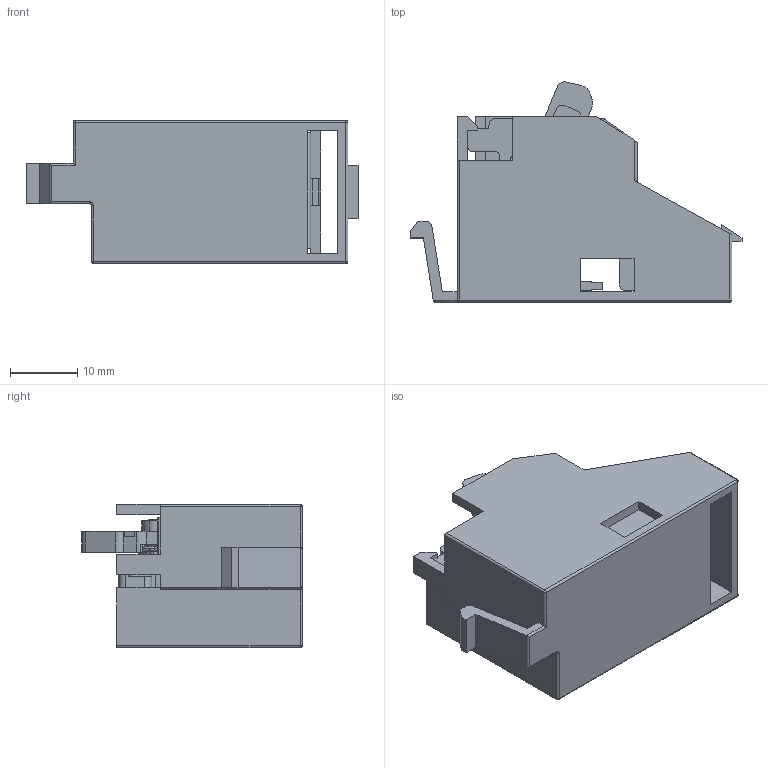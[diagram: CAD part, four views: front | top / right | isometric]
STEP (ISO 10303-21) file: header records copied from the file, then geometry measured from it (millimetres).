
FILE_DESCRIPTION (( 'STEP AP214' ), '1' );
FILE_NAME ('辅助（OF） BM3-63 左.STEP', '2023-11-02T01:52:01', ( '' ), ( '' ), 'SwSTEP 2.0', 'SolidWorks 2016', '' );
FILE_SCHEMA (( 'AUTOMOTIVE_DESIGN' ));
Length unit declared in the file: millimetre
Products named in the file (5): 峚雄; ﾍ篩ﾇ+ﾄﾚｲｿ; 辅助（OF） BM3-63 左; 畢裝3   2023.10.25載蜊; 粟銅3 蚾饜綴
Assembly tree (4 placements, depth 2):
  辅助（OF） BM3-63 左
    ﾍ篩ﾇ+ﾄﾚｲｿ
    峚雄
    粟銅3 蚾饜綴
    畢裝3   2023.10.25載蜊
Bounding box: 49.2 x 32.65 x 21.2 mm (x, y, z)
Volume: 8590.3 mm3; surface area: 10674.5 mm2
Topology: 5 solids, 5 shells, 369 faces, 996 edges, 650 vertices
Faces by surface type: plane 227, cylinder 115, bspline 25, torus 2
Entity records: 13811 total; most frequent: CARTESIAN_POINT 4283, ORIENTED_EDGE 1984, DIRECTION 1907, EDGE_CURVE 992, LINE 711, VECTOR 711, VERTEX_POINT 650, AXIS2_PLACEMENT_3D 598
